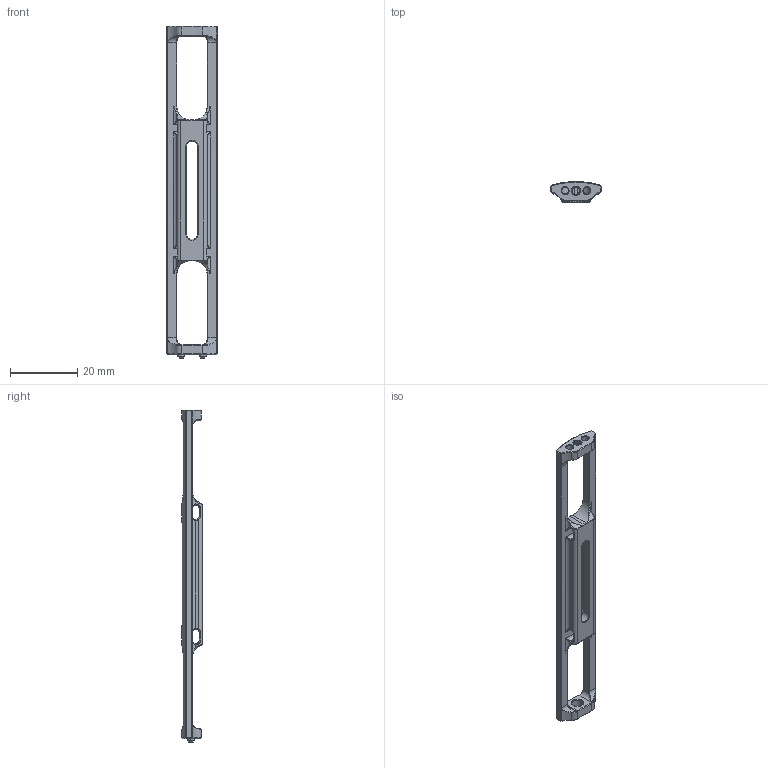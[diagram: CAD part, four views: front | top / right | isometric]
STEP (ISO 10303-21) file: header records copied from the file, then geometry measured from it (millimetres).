
FILE_DESCRIPTION (( 'STEP AP214' ), '1' );
FILE_NAME ('BR-102784-150_Rev_0.step', '2024-12-10T19:11:06', ( '' ), ( '' ), 'SwSTEP 2.0', 'SolidWorks 2024', '' );
FILE_SCHEMA (( 'AUTOMOTIVE_DESIGN' ));
Length unit declared in the file: millimetre
Products named in the file (1): BR-102784-150_Rev_0
Bounding box: 15 x 6.15 x 99 mm (x, y, z)
Volume: 3010.2 mm3; surface area: 3625.3 mm2
Topology: 1 solids, 1 shells, 259 faces, 639 edges, 362 vertices
Faces by surface type: plane 72, cylinder 65, cone 61, bspline 61
Entity records: 17883 total; most frequent: CARTESIAN_POINT 12513, ORIENTED_EDGE 1246, DIRECTION 896, EDGE_CURVE 623, VERTEX_POINT 362, AXIS2_PLACEMENT_3D 330, EDGE_LOOP 273, FACE_OUTER_BOUND 259
